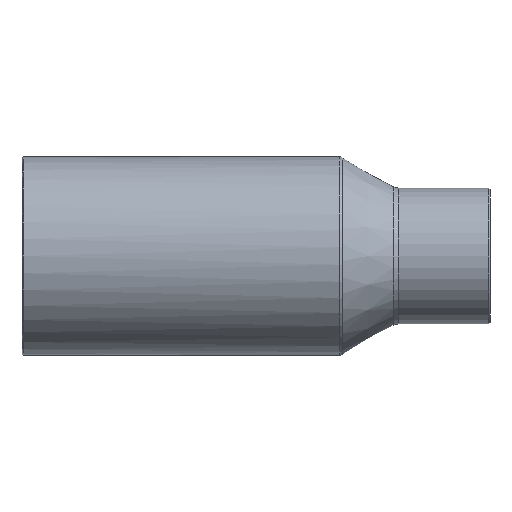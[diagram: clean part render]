
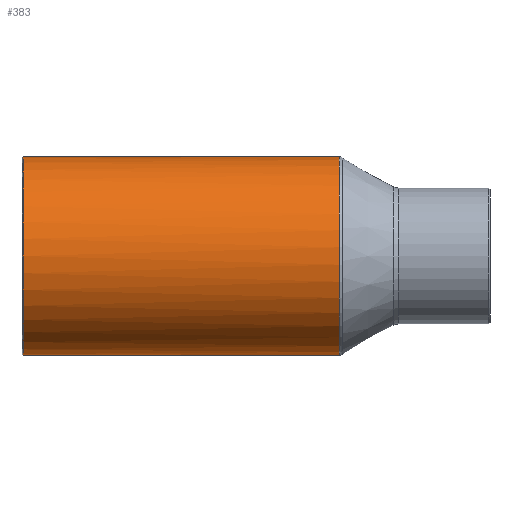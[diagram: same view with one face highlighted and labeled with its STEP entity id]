
A CAD part, front view. The second image highlights one B-rep face of the part: STEP entity #383.
In plain terms, the highlighted cylindrical face has radius 19.85 mm (diameter 39.7 mm), a full revolution.
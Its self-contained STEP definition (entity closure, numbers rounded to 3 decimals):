
#121=CARTESIAN_POINT('',(0.,0.0,-19.85));
#122=VERTEX_POINT('',#121);
#123=CARTESIAN_POINT('',(0.,0.0,19.85));
#124=VERTEX_POINT('',#123);
#309=CARTESIAN_POINT('',(-43.3,19.85,0.));
#310=VERTEX_POINT('',#309);
#311=CARTESIAN_POINT('',(-43.3,0.0,0.0));
#312=DIRECTION('',(-1.0,0.0,0.0));
#313=DIRECTION('',(0.0,-1.0,0.0));
#314=AXIS2_PLACEMENT_3D('',#311,#312,#313);
#315=CIRCLE('',#314,19.85);
#316=EDGE_CURVE('',#310,#310,#315,.T.);
#341=CARTESIAN_POINT('',(3.2,0.0,0.0));
#342=DIRECTION('',(1.0,0.0,0.0));
#343=DIRECTION('',(0.0,1.0,0.0));
#344=AXIS2_PLACEMENT_3D('',#341,#342,#343);
#345=CYLINDRICAL_SURFACE('',#344,19.85);
#346=CARTESIAN_POINT('',(19.86,16.19,11.485));
#347=VERTEX_POINT('',#346);
#348=CARTESIAN_POINT('',(19.86,16.19,-11.485));
#349=VERTEX_POINT('',#348);
#350=CARTESIAN_POINT('',(19.86,0.0,0.0));
#351=DIRECTION('',(1.0,0.0,0.0));
#352=DIRECTION('',(0.0,-1.0,0.0));
#353=AXIS2_PLACEMENT_3D('',#350,#351,#352);
#354=CIRCLE('',#353,19.85);
#355=EDGE_CURVE('',#347,#349,#354,.T.);
#356=ORIENTED_EDGE('',*,*,#355,.F.);
#357=CARTESIAN_POINT('',(0.0,0.0,0.0));
#358=DIRECTION('',(-0.632,0.775,0.0));
#359=DIRECTION('',(0.775,0.632,0.0));
#360=AXIS2_PLACEMENT_3D('',#357,#358,#359);
#361=ELLIPSE('',#360,31.416,19.85);
#362=EDGE_CURVE('',#124,#347,#361,.T.);
#363=ORIENTED_EDGE('',*,*,#362,.F.);
#364=CARTESIAN_POINT('',(0.0,0.0,0.0));
#365=DIRECTION('',(0.632,0.775,0.0));
#366=DIRECTION('',(-0.775,0.632,0.0));
#367=AXIS2_PLACEMENT_3D('',#364,#365,#366);
#368=ELLIPSE('',#367,31.416,19.85);
#369=EDGE_CURVE('',#122,#124,#368,.T.);
#370=ORIENTED_EDGE('',*,*,#369,.F.);
#371=CARTESIAN_POINT('',(0.0,0.0,0.0));
#372=DIRECTION('',(-0.632,0.775,0.0));
#373=DIRECTION('',(0.775,0.632,0.0));
#374=AXIS2_PLACEMENT_3D('',#371,#372,#373);
#375=ELLIPSE('',#374,31.416,19.85);
#376=EDGE_CURVE('',#349,#122,#375,.T.);
#377=ORIENTED_EDGE('',*,*,#376,.F.);
#378=EDGE_LOOP('',(#356,#363,#370,#377));
#379=FACE_OUTER_BOUND('',#378,.T.);
#380=ORIENTED_EDGE('',*,*,#316,.F.);
#381=EDGE_LOOP('',(#380));
#382=FACE_BOUND('',#381,.T.);
#383=ADVANCED_FACE('',(#379,#382),#345,.T.);
